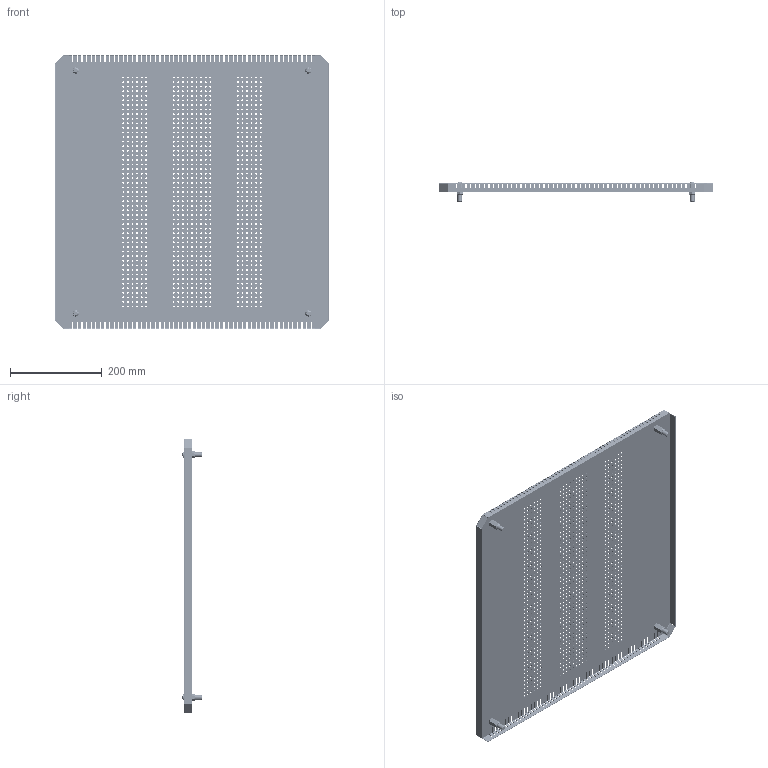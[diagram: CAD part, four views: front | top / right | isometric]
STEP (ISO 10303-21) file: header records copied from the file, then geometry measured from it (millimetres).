
FILE_DESCRIPTION (( 'STEP AP203' ), '1' );
FILE_NAME ('R 60.60 IP Ïàíåëü òåëåêîììóíèêàöèîííàÿ ïîòîëî÷íàÿ ñ ïåðôîðàöèåé.STEP', '2013-01-12T08:49:29', ( 'System' ), ( '' ), 'SwSTEP 2.0', 'SolidWorks 2012', '' );
FILE_SCHEMA (( 'CONFIG_CONTROL_DESIGN' ));
Products named in the file (1): R 60.60 IP Ïàíåëü òåëåêîììóíèêàöèîííàÿ ïîòîëî÷íàÿ ñ ïåðôîðàöèåé
Bounding box: 600 x 42.72 x 600 mm (x, y, z)
Volume: 470455.6 mm3; surface area: 788535.1 mm2
Topology: 5 solids, 9 shells, 3496 faces, 10058 edges, 6372 vertices
Faces by surface type: cylinder 2410, plane 990, cone 56, bspline 16, torus 16, sphere 8
Entity records: 121483 total; most frequent: DIRECTION 21810, CARTESIAN_POINT 21307, ORIENTED_EDGE 20084, EDGE_CURVE 10042, AXIS2_PLACEMENT_3D 8405, VERTEX_POINT 6372, EDGE_LOOP 5666, VECTOR 5000
